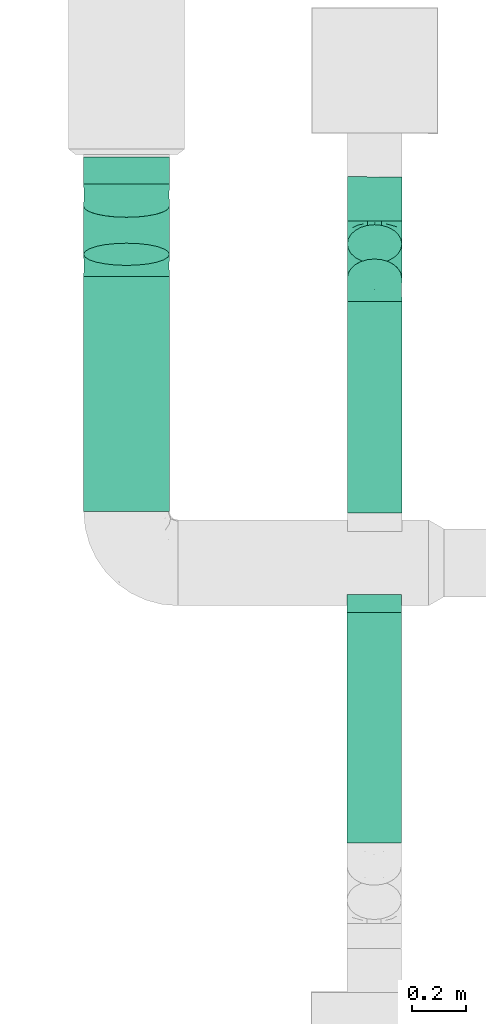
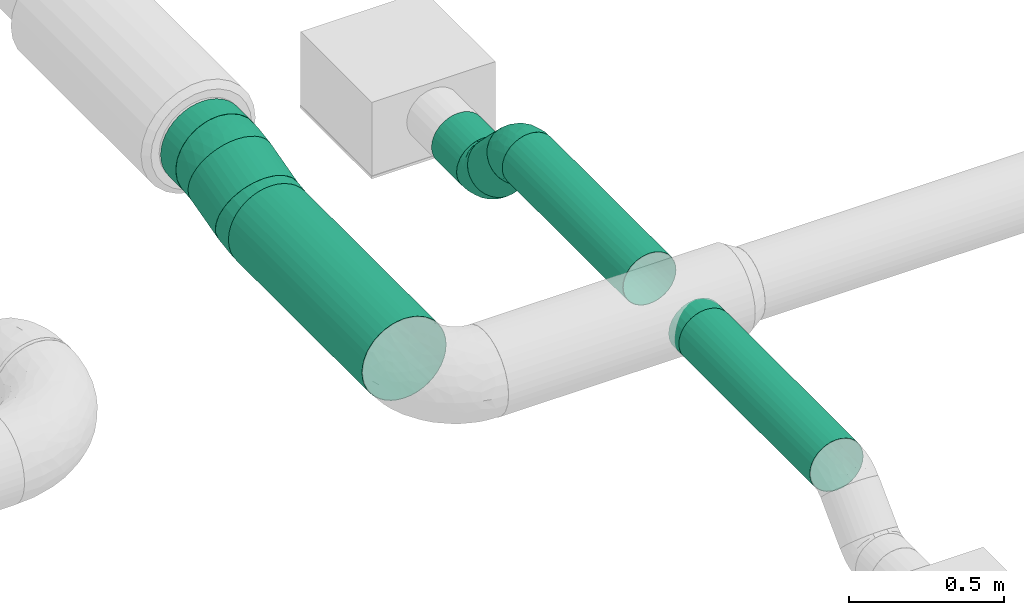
# One storey, part 15 of 63: 7 flow segments, 5 flow fittings.
"""IFC2X3 building model written with IfcOpenShell, lengths in millimetres."""

from ifc_helpers import new_model, entity, si_unit, converted_unit, derived_unit, direction, frame, origin_with_axes, origin_2d_with_axis, place, context, subcontext, project, spatial, hollow_circle, extrude, open_shell, surface_model, source, transform, mapped, type_object, element, save


model = new_model("IFC2X3")

# Units and contexts
model_context = context("Model", 3, precision=0.01, world=frame((0.0, 4.29681676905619e-09, 0.0)), true_north=direction((4.01073788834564e-13, 1.0)))
plan_context = context("Plan", 3, precision=0.01, world=frame((0.0, 4.29681676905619e-09, 0.0)), true_north=direction((4.01073788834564e-13, 1.0)))
body_context = subcontext(model_context, "Body", "Model", "MODEL_VIEW")
ifc_project = project(units=[converted_unit("PLANEANGLEUNIT", "DEGREE", entity("IfcPositiveLengthMeasure", 0.0174532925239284), si_unit("PLANEANGLEUNIT", "RADIAN"), dimensions=[0, 0, 0, 0, 0, 0, 0]), si_unit("AREAUNIT", "SQUARE_METRE"), si_unit("LENGTHUNIT", "METRE", prefix="MILLI"), si_unit("MASSUNIT", "GRAM", prefix="KILO"), si_unit("POWERUNIT", "WATT"), si_unit("PRESSUREUNIT", "PASCAL"), si_unit("FORCEUNIT", "NEWTON", prefix="KILO"), si_unit("ELECTRICVOLTAGEUNIT", "VOLT"), si_unit("ELECTRICCURRENTUNIT", "AMPERE"), si_unit("THERMODYNAMICTEMPERATUREUNIT", "DEGREE_CELSIUS"), si_unit("TIMEUNIT", "SECOND"), si_unit("VOLUMEUNIT", "CUBIC_METRE"), derived_unit("LINEARVELOCITYUNIT", [(si_unit("LENGTHUNIT", "METRE"), 1), (si_unit("TIMEUNIT", "SECOND"), -1)]), derived_unit("VOLUMETRICFLOWRATEUNIT", [(si_unit("VOLUMEUNIT", "CUBIC_METRE"), 1), (si_unit("TIMEUNIT", "SECOND"), -1)]), derived_unit("THERMALTRANSMITTANCEUNIT", [(si_unit("POWERUNIT", "WATT"), 1), (si_unit("THERMODYNAMICTEMPERATUREUNIT", "KELVIN"), -1), (si_unit("AREAUNIT", "SQUARE_METRE"), -1)]), derived_unit("SOUNDPRESSUREUNIT", [(si_unit("PRESSUREUNIT", "PASCAL"), 1)])], contexts=[model_context, plan_context])

# Site, building, storey
site_placement = place(None, frame((0.0, -4.29681676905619e-09, 0.0), z_axis=(0.0, 0.0, 1.0), x_axis=(1.0, 0.0, 0.0)))
site = spatial("IfcSite", under=ifc_project, at=site_placement, CompositionType="ELEMENT")
building_placement = place(site_placement, frame((0.0, 4.29681676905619e-09, 0.0), z_axis=(0.0, 0.0, 1.0), x_axis=(1.0, 0.0, 0.0)))
building = spatial("IfcBuilding", under=site, at=building_placement, Name="mc-building", CompositionType="ELEMENT")
storey_placement = place(building_placement, frame((0.0, 0.0, 210900.0), z_axis=(0.0, 0.0, 1.0), x_axis=(1.0, 0.0, 0.0)))
storey = spatial("IfcBuildingStorey", under=building, at=storey_placement, Name="Nivå F", CompositionType="ELEMENT", Elevation=210900.0)

# Flow fittings
duct_fitting_type_1 = type_object("IfcDuctFittingType", Name="magicirc_elbow_short_001", PredefinedType="BEND")
shared_shape_1 = source(origin_with_axes(), body_context, "Body", "SurfaceModel", [
    surface_model("IfcShellBasedSurfaceModel", [(-49.70563, 50.0, -86.60254), (-49.70563, 25.8819, -96.59259), (-49.70563, 70.71068, -70.71068), (-49.70563, 96.59259, -25.8819), (-49.70563, 86.60254, -50.0), (-49.70563, 86.60254, 50.0), (-49.70563, 96.59259, 25.8819), (-49.70563, 25.8819, 96.59259), (-49.70563, 50.0, 86.60254), (-49.70563, 70.71068, 70.71068), (-49.70563, -25.8819, 96.59259), (-49.70563, 0.0, 100.0), (-49.70563, 100.0, 0.0), (12.37742, -29.88175, 90.64522), (37.12404, -18.70607, 89.97421), (4.68854, -11.31914, 97.51858), (-15.97928, 38.57739, 94.78597), (-33.08073, 79.86395, 64.3352), (-38.64634, 93.30051, 41.23913), (-23.56301, 62.37217, 82.35825), (22.87885, -55.23445, 71.73393), (28.07272, 6.98114, 98.51039), (7.39001, 23.69873, 99.67584), (-26.09006, 96.38443, 50.0), (16.84592, 53.44845, 96.59259), (-33.15408, 103.44845, 25.8819), (-0.20815, 70.50252, 86.60254), (-49.70563, 0.0, -100.0), (-21.98306, 11.532, -99.67584), (4.68854, -11.31915, -97.51858), (6.95764, 23.32334, -99.68416), (-15.97928, 38.57738, -94.78597), (-0.20815, 70.50252, -86.60254), (16.84592, 53.44845, -96.59259), (60.35471, -50.93633, -55.32131), (28.49827, -69.68635, -52.39492), (22.87886, -55.23445, -71.73393), (28.07272, 6.98113, -98.51039), (-49.70565, -96.59259, -25.8819), (-49.70565, -100.0, 0.0), (-49.70565, -86.60254, -50.0), (-14.85282, 85.14719, -70.71068), (-26.09007, 96.38443, -50.0), (-33.1541, 103.44846, -25.8819), (-24.86597, -97.5535, 0.0), (-6.78576, -95.77276, 0.0), (-18.13184, -91.89202, 33.47276), (-13.02349, -39.47786, 89.97421), (-18.231, -62.02139, 76.22982), (-21.41192, 11.5723, 99.68416), (-49.70565, -86.60254, 50.0), (-49.70565, -96.59259, 25.8819), (22.49479, -82.45996, 31.38069), (50.71647, -68.4272, 35.42053), (29.12437, -69.42701, 52.3949), (13.84949, -89.51313, 0.0), (34.48473, -83.25349, 0.0), (12.37743, -29.88176, -90.64522), (-13.02349, -39.47786, -89.97421), (-42.05198, 101.52241, 0.0), (-35.56351, 105.85786, 0.0), (-38.64635, 93.30051, -41.23913), (37.12406, -18.70605, -89.97421), (1.72867, -92.12319, -18.52111), (-33.08075, 79.86395, -64.3352), (-27.44224, 60.76535, -82.35825), (-24.78683, -14.914, 98.51039), (-49.70565, -70.71068, -70.71068), (-6.65981, -78.69465, -55.32131), (-24.78683, -14.91401, -98.51039), (-49.70563, -50.0, -86.60254), (-49.70563, -25.8819, -96.59259), (-49.70563, -70.71068, 70.71068), (-49.70563, -50.0, 86.60254), (35.14719, 35.1472, -100.0), (103.44846, -33.15406, 25.8819), (96.38444, -26.09004, -50.0), (53.44846, 16.84593, -96.59259), (85.14719, -14.8528, -70.71068), (70.50253, -0.20814, -86.60254), (105.85787, -35.56347, 0.0), (103.44846, -33.15406, -25.8819), (-14.85282, 85.14719, 70.71068), (85.14719, -14.8528, 70.71068), (96.38444, -26.09004, 50.0), (70.50253, -0.20814, 86.60254), (53.44846, 16.84593, 96.59259), (35.14719, 35.1472, 100.0), (-6.6598, -78.69465, 55.32131), (42.49431, -77.9055, 18.20626), (72.51983, -62.9233, 0.0), (86.56365, -51.39784, 0.0), (63.91858, -66.36329, 18.52111), (77.79861, -52.15632, 33.47277), (60.35471, -50.93634, 55.32131), (56.74699, -30.96449, 76.22981), (53.50228, -73.08841, 0.0), (-18.13182, -91.89201, -33.47277), (77.79861, -52.15632, -33.47277), (-18.23098, -62.02139, -76.22982), (42.40177, -74.21421, -31.38069), (12.52339, -84.24729, -35.42053), (25.03951, -85.13552, -18.20627), (56.747, -30.96448, -76.22982)], [open_shell([[[0, 1, 2]], [[3, 4, 2]], [[5, 6, 7]], [[7, 8, 9]], [[5, 7, 9]], [[10, 11, 7]], [[6, 12, 3]], [[13, 14, 15]], [[8, 7, 16]], [[17, 5, 9]], [[6, 5, 18]], [[19, 8, 16]], [[13, 20, 14]], [[15, 21, 22]], [[17, 23, 18]], [[16, 22, 24]], [[25, 18, 23]], [[24, 26, 16]], [[26, 19, 16]], [[8, 19, 9]], [[19, 17, 9]], [[14, 21, 15]], [[6, 18, 25]], [[17, 18, 5]], [[27, 1, 28]], [[29, 28, 30]], [[31, 28, 1]], [[0, 31, 1]], [[32, 33, 31]], [[31, 33, 30]], [[30, 28, 31]], [[34, 35, 36]], [[30, 37, 29]], [[38, 39, 40]], [[41, 42, 43]], [[44, 45, 46]], [[47, 48, 20]], [[15, 22, 49]], [[46, 50, 51]], [[46, 51, 44]], [[52, 53, 54]], [[49, 22, 16]], [[51, 39, 44]], [[46, 55, 52]], [[15, 47, 13]], [[20, 13, 47]], [[55, 46, 45]], [[55, 56, 52]], [[57, 36, 58]], [[59, 60, 43]], [[43, 42, 61]], [[62, 57, 29]], [[45, 44, 63]], [[42, 41, 64]], [[65, 64, 41]], [[64, 61, 42]], [[55, 45, 63]], [[44, 39, 38]], [[36, 57, 62]], [[58, 29, 57]], [[15, 66, 47]], [[49, 66, 15]], [[67, 68, 40]], [[29, 69, 28]], [[58, 69, 29]], [[27, 67, 1]], [[40, 2, 1]], [[2, 40, 3]], [[70, 67, 71]], [[67, 27, 71]], [[40, 1, 67]], [[40, 39, 3]], [[39, 6, 3]], [[7, 6, 39]], [[10, 7, 39]], [[72, 73, 50]], [[51, 50, 73]], [[73, 10, 51]], [[51, 10, 39]], [[74, 75, 76]], [[41, 33, 32]], [[33, 75, 74]], [[33, 41, 75]], [[77, 78, 79]], [[77, 74, 78]], [[76, 80, 81]], [[78, 74, 76]], [[76, 75, 80]], [[41, 43, 23]], [[25, 23, 43]], [[23, 24, 41]], [[82, 26, 24]], [[82, 24, 23]], [[41, 24, 75]], [[75, 83, 84]], [[83, 75, 85]], [[75, 86, 85]], [[75, 24, 86]], [[24, 87, 86]], [[43, 60, 25]], [[88, 50, 46]], [[88, 52, 54]], [[73, 48, 47]], [[72, 50, 88]], [[66, 11, 10]], [[7, 11, 49]], [[10, 73, 47]], [[17, 19, 82]], [[16, 7, 49]], [[73, 72, 48]], [[56, 89, 52]], [[59, 6, 25]], [[90, 91, 92]], [[59, 12, 6]], [[53, 93, 94]], [[66, 49, 11]], [[88, 46, 52]], [[72, 88, 48]], [[86, 21, 14]], [[94, 84, 83]], [[85, 86, 14]], [[93, 84, 94]], [[83, 85, 95]], [[14, 95, 85]], [[93, 91, 75]], [[86, 87, 21]], [[53, 92, 93]], [[60, 59, 25]], [[87, 24, 22]], [[95, 20, 94]], [[82, 19, 26]], [[84, 93, 75]], [[20, 95, 14]], [[89, 96, 92]], [[94, 83, 95]], [[20, 48, 88]], [[82, 23, 17]], [[54, 94, 20]], [[94, 54, 53]], [[88, 54, 20]], [[47, 66, 10]], [[22, 21, 87]], [[92, 53, 89]], [[53, 52, 89]], [[96, 89, 56]], [[96, 90, 92]], [[93, 92, 91]], [[91, 80, 75]], [[78, 76, 34]], [[77, 79, 62]], [[69, 71, 27]], [[4, 61, 64]], [[32, 65, 41]], [[31, 0, 65]], [[0, 2, 65]], [[33, 74, 30]], [[61, 3, 43]], [[68, 97, 40]], [[98, 81, 91]], [[97, 44, 38]], [[99, 70, 58]], [[100, 101, 35]], [[99, 67, 70]], [[40, 97, 38]], [[101, 97, 68]], [[70, 71, 58]], [[102, 55, 63]], [[99, 36, 68]], [[56, 102, 100]], [[3, 12, 59]], [[68, 67, 99]], [[32, 31, 65]], [[34, 100, 35]], [[69, 58, 71]], [[4, 64, 2]], [[62, 29, 37]], [[36, 62, 103]], [[62, 79, 103]], [[98, 76, 81]], [[74, 77, 37]], [[98, 34, 76]], [[64, 65, 2]], [[98, 91, 90]], [[101, 63, 97]], [[100, 34, 98]], [[79, 78, 103]], [[37, 30, 74]], [[36, 103, 34]], [[43, 3, 59]], [[36, 99, 58]], [[78, 34, 103]], [[35, 68, 36]], [[97, 63, 44]], [[68, 35, 101]], [[28, 69, 27]], [[62, 37, 77]], [[63, 101, 102]], [[101, 100, 102]], [[98, 96, 100]], [[55, 102, 56]], [[3, 61, 4]], [[81, 80, 91]], [[96, 98, 90]], [[96, 56, 100]]])]),
])
for number, where, z_axis, x_axis, name in (
    (1, (530505.52786, 446598.74261, 3935.01186999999), (-0.999999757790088, 0.000647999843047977, -0.000253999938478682), (-0.000647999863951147, -0.999999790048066, 0.0), "magicirc_elbow_short_001"),
    (2, (530505.35723, 446402.55444, 4131.20000000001), (-0.999999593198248, 0.0, -0.00090199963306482), (0.0, 1.0, 0.0), "magicirc_elbow_short_001"),
):
    element("IfcFlowFitting", number, at=place(storey_placement, frame(where, z_axis=z_axis, x_axis=x_axis)), inside=storey, type_object=duct_fitting_type_1, Name=name, context=body_context, shape_type="MappedRepresentation", body=[
        mapped(shared_shape_1, transform((0.0, 0.0, 0.0), scale=1.0)),
    ])
duct_fitting_type_2 = type_object("IfcDuctFittingType", Name="magicirc_elbow_full_radius_001", PredefinedType="BEND")
shared_shape_2 = source(origin_with_axes(), body_context, "Body", "SurfaceModel", [
    surface_model("IfcShellBasedSurfaceModel", [(-41.47054, 78.75, -136.39901), (-41.47054, 40.764, -152.13332), (-41.47054, 0.0, -157.5), (-41.47054, 136.39901, -78.75), (-41.47054, -40.764, -152.13332), (-41.47054, 111.36932, -111.36932), (-41.47054, -157.5, 0.0), (-41.47054, -152.13332, 40.764), (-41.47054, -111.36932, -111.36932), (-41.47054, -152.13332, -40.764), (-41.47054, -78.75, -136.39901), (-41.47054, -136.39901, -78.75), (-41.47054, 152.13332, -40.764), (-41.47054, 157.5, 0.0), (-41.47054, 152.13332, 40.764), (-41.47054, 136.39901, 78.75), (-41.47054, 111.36932, 111.36932), (-41.47054, 78.75, 136.39901), (-41.47054, 40.764, 152.13332), (-41.47054, -111.36932, 111.36932), (-41.47054, -78.75, 136.39901), (-41.47054, -136.39901, 78.75), (-41.47054, 0.0, 157.5), (-41.47054, -40.764, 152.13332), (40.05746, 10.73336, -157.5), (29.50696, 50.10836, -152.13332), (19.67546, 86.80003, -136.39901), (4.7548, 142.48468, -78.75), (50.60796, -28.64164, -152.13332), (11.23296, 118.30787, -111.36932), (79.43246, -136.21613, 40.764), (80.82147, -141.39995, 0.0), (68.88196, -96.84114, -111.36932), (60.43946, -65.33329, -136.39901), (79.43246, -136.21613, -40.764), (75.36012, -121.01795, -78.75), (0.68246, 157.68287, -40.764), (-0.70654, 162.86668, 0.0), (0.68246, 157.68287, 40.764), (68.88196, -96.84114, 111.36932), (11.23296, 118.30787, 111.36932), (4.7548, 142.48468, 78.75), (40.05746, 10.73336, 157.5), (19.67546, 86.80003, 136.39901), (29.50696, 50.10836, 152.13332), (75.36012, -121.01795, 78.75), (60.43946, -65.33329, 136.39901), (50.60796, -28.64164, 152.13332), (9.94765, -123.30004, 94.09097), (18.76918, -142.56619, 57.79057), (12.40228, -94.20471, 123.507), (1.28551, -152.77932, 29.41271), (2.5908, -19.67907, 155.87488), (7.77576, -59.06273, 144.65871), (-2.79647, 21.24129, 156.38517), (-8.01604, 60.88784, 146.15449), (43.13613, -147.7242, 25.66079), (20.20309, -153.45769, 0.0), (-20.91266, 158.84743, 0.0), (38.30049, -147.90621, -29.41271), (18.76919, -142.56618, -57.79057), (22.30371, -121.67334, -94.09096), (-2.79647, 21.24128, -156.38517), (2.5908, -19.67907, -155.87488), (-8.01605, 60.88783, -146.15449), (7.77576, -59.06273, -144.65871), (12.40229, -94.20471, -123.507), (-3.43246, -153.85505, -25.66079)], [open_shell([[[0, 1, 2]], [[3, 0, 2]], [[4, 3, 2]], [[5, 0, 3]], [[3, 6, 7]], [[8, 9, 10]], [[4, 10, 6]], [[11, 9, 8]], [[6, 10, 9]], [[6, 3, 4]], [[7, 12, 3]], [[13, 7, 14]], [[15, 14, 16]], [[17, 16, 7]], [[7, 16, 14]], [[7, 18, 17]], [[19, 20, 21]], [[7, 21, 22]], [[23, 22, 20]], [[21, 20, 22]], [[22, 18, 7]], [[12, 7, 13]], [[24, 25, 26]], [[24, 26, 27]], [[24, 27, 28]], [[27, 26, 29]], [[30, 31, 27]], [[28, 32, 33]], [[32, 28, 34]], [[32, 34, 35]], [[34, 28, 31]], [[28, 27, 31]], [[27, 36, 37]], [[38, 39, 37]], [[40, 38, 41]], [[42, 40, 43]], [[38, 40, 39]], [[43, 44, 42]], [[37, 39, 45]], [[45, 30, 37]], [[46, 42, 47]], [[42, 46, 39]], [[42, 39, 40]], [[37, 30, 27]], [[19, 21, 48]], [[21, 7, 49]], [[48, 50, 19]], [[51, 49, 7]], [[21, 49, 48]], [[22, 23, 52]], [[53, 52, 23]], [[54, 18, 22]], [[20, 53, 23]], [[50, 53, 20]], [[20, 19, 50]], [[17, 55, 43]], [[15, 16, 41]], [[17, 40, 16]], [[56, 51, 57]], [[6, 51, 7]], [[49, 56, 30]], [[58, 14, 38]], [[47, 42, 52]], [[58, 13, 14]], [[38, 14, 15]], [[17, 18, 55]], [[31, 56, 57]], [[6, 57, 51]], [[54, 55, 18]], [[52, 53, 47]], [[46, 53, 50]], [[46, 47, 53]], [[54, 52, 42]], [[39, 46, 50]], [[30, 56, 31]], [[30, 45, 49]], [[45, 39, 48]], [[45, 48, 49]], [[39, 50, 48]], [[42, 44, 54]], [[52, 54, 22]], [[41, 38, 15]], [[37, 58, 38]], [[43, 55, 44]], [[17, 43, 40]], [[41, 16, 40]], [[54, 44, 55]], [[49, 51, 56]], [[59, 60, 34]], [[32, 35, 61]], [[62, 2, 1]], [[63, 4, 2]], [[27, 5, 3]], [[0, 64, 1]], [[5, 29, 0]], [[11, 61, 60]], [[64, 0, 26]], [[65, 63, 28]], [[66, 65, 33]], [[12, 36, 3]], [[6, 9, 67]], [[60, 59, 67]], [[66, 8, 10]], [[63, 62, 24]], [[9, 11, 60]], [[11, 8, 61]], [[65, 10, 4]], [[67, 59, 57]], [[60, 67, 9]], [[12, 13, 58]], [[58, 37, 36]], [[62, 64, 25]], [[36, 27, 3]], [[26, 0, 29]], [[35, 60, 61]], [[25, 64, 26]], [[8, 66, 61]], [[66, 10, 65]], [[5, 27, 29]], [[63, 2, 62]], [[24, 62, 25]], [[65, 28, 33]], [[65, 4, 63]], [[62, 1, 64]], [[66, 33, 32]], [[35, 34, 60]], [[6, 67, 57]], [[31, 57, 59]], [[32, 61, 66]], [[31, 59, 34]], [[28, 63, 24]], [[12, 58, 36]]])]),
])
for number, where, z_axis, x_axis, name in (
    (3, (529594.70329, 446742.40275, 4200.0), (1.0, 0.0, 0.0), (0.0, -1.0, 0.0), "magicirc_elbow_full_radius_001"),
    (4, (529594.70329, 446485.63287, 4131.19871999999), (-1.0, 0.0, 0.0), (0.0, -0.965925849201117, -0.258818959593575), "magicirc_elbow_full_radius_001"),
):
    element("IfcFlowFitting", number, at=place(storey_placement, frame(where, z_axis=z_axis, x_axis=x_axis)), inside=storey, type_object=duct_fitting_type_2, Name=name, context=body_context, shape_type="MappedRepresentation", body=[
        mapped(shared_shape_2, transform((0.0, 0.0, 0.0), scale=1.0)),
    ])
duct_fitting_type_3 = type_object("IfcDuctFittingType", Name="magicirc_tapoutlet_001", PredefinedType="CONNECTOR")
shared_shape_3 = source(origin_with_axes(), body_context, "Body", "SurfaceModel", [
    surface_model("IfcShellBasedSurfaceModel", [(25.0, 0.0, -100.0), (25.0, -50.0, -86.60254), (25.0, -25.8819, -96.59259), (25.0, -100.0, 0.0), (25.0, -96.59259, -25.8819), (25.0, -96.59259, 25.8819), (25.0, 25.8819, -96.59259), (25.0, 100.0, 0.0), (25.0, 50.0, -86.60254), (25.0, 70.71068, -70.71068), (25.0, 86.60254, -50.0), (25.0, -70.71068, -70.71068), (25.0, -86.60254, -50.0), (25.0, 96.59259, -25.8819), (25.0, 96.59259, 25.8819), (25.0, 86.60254, 50.0), (25.0, 70.71068, 70.71068), (25.0, 25.8819, 96.59259), (25.0, 50.0, 86.60254), (25.0, -25.8819, 96.59259), (25.0, -70.71068, 70.71068), (25.0, -86.60254, 50.0), (25.0, -50.0, 86.60254), (25.0, 0.0, 100.0), (0.0, 0.0, 100.0), (0.0, 25.8819, 96.59259), (0.0, 50.0, 86.60254), (0.0, 70.71068, 70.71068), (0.0, 86.60254, 50.0), (0.0, 96.59259, 25.8819), (0.0, 100.0, 0.0), (0.0, 96.59259, -25.8819), (0.0, 86.60254, -50.0), (0.0, 70.71068, -70.71068), (0.0, 25.8819, -96.59259), (0.0, 50.0, -86.60254), (0.0, 0.0, -100.0), (0.0, -25.8819, -96.59259), (0.0, -50.0, -86.60254), (0.0, -70.71068, -70.71068), (0.0, -86.60254, -50.0), (0.0, -96.59259, -25.8819), (0.0, -100.0, 0.0), (0.0, -96.59259, 25.8819), (0.0, -86.60254, 50.0), (0.0, -70.71068, 70.71068), (0.0, -50.0, 86.60254), (0.0, -25.8819, 96.59259), (-41.9151, 0.0, -100.0), (-41.9151, -25.8819, -96.59259), (-41.9151, 25.8819, -96.59259), (-41.9151, 96.59259, 25.8819), (-41.9151, 50.0, -86.60254), (-41.9151, 86.60254, -50.0), (-41.9151, 70.71068, -70.71068), (-41.9151, -100.0, 0.0), (-41.9151, -96.59259, 25.8819), (-41.9151, -70.71068, -70.71068), (-41.9151, -50.0, -86.60254), (-41.9151, -96.59259, -25.8819), (-41.9151, -86.60254, -50.0), (-41.9151, 96.59259, -25.8819), (-41.9151, 86.60254, 50.0), (-41.9151, 70.71068, 70.71068), (-41.9151, 50.0, 86.60254), (-41.9151, 25.8819, 96.59259), (-41.9151, 0.0, 100.0), (-41.9151, -86.60254, 50.0), (-41.9151, -70.71068, 70.71068), (-41.9151, -25.8819, 96.59259), (-41.9151, -50.0, 86.60254), (-41.9151, 100.0, 0.0)], [open_shell([[[0, 1, 2]], [[3, 4, 5]], [[6, 7, 0]], [[8, 7, 6]], [[7, 9, 10]], [[7, 8, 9]], [[11, 0, 5]], [[0, 11, 1]], [[12, 5, 4]], [[5, 12, 11]], [[7, 10, 13]], [[14, 15, 0]], [[15, 16, 0]], [[17, 0, 18]], [[0, 16, 18]], [[0, 17, 19]], [[0, 20, 21]], [[5, 0, 21]], [[0, 22, 20]], [[19, 22, 0]], [[17, 23, 19]], [[14, 0, 7]], [[24, 23, 17]], [[25, 17, 18]], [[24, 17, 25]], [[26, 16, 27]], [[26, 25, 18]], [[16, 26, 18]], [[28, 15, 14]], [[29, 14, 7]], [[27, 15, 28]], [[29, 28, 14]], [[30, 29, 7]], [[15, 27, 16]], [[30, 7, 13]], [[31, 13, 10]], [[30, 13, 31]], [[32, 9, 33]], [[32, 31, 10]], [[9, 32, 10]], [[6, 0, 34]], [[8, 6, 35]], [[33, 8, 35]], [[36, 34, 0]], [[6, 34, 35]], [[8, 33, 9]], [[36, 0, 2]], [[37, 2, 1]], [[36, 2, 37]], [[38, 11, 39]], [[38, 37, 1]], [[11, 38, 1]], [[40, 12, 4]], [[41, 4, 3]], [[39, 12, 40]], [[41, 40, 4]], [[42, 41, 3]], [[12, 39, 11]], [[42, 3, 5]], [[43, 5, 21]], [[42, 5, 43]], [[44, 20, 45]], [[44, 43, 21]], [[20, 44, 21]], [[46, 22, 19]], [[47, 19, 23]], [[45, 22, 46]], [[47, 46, 19]], [[24, 47, 23]], [[22, 45, 20]], [[15, 0, 14]], [[0, 15, 18]], [[18, 15, 16]], [[19, 0, 17]], [[0, 21, 5]], [[20, 21, 0]], [[20, 0, 22]], [[48, 49, 50]], [[50, 51, 52]], [[53, 54, 51]], [[51, 54, 52]], [[50, 55, 56]], [[57, 55, 58]], [[50, 49, 58]], [[59, 55, 60]], [[57, 60, 55]], [[58, 55, 50]], [[61, 53, 51]], [[62, 51, 50]], [[50, 63, 62]], [[64, 50, 65]], [[64, 63, 50]], [[66, 65, 50]], [[67, 68, 50]], [[50, 56, 67]], [[69, 66, 70]], [[50, 68, 70]], [[70, 66, 50]], [[71, 61, 51]], [[66, 24, 25]], [[65, 25, 26]], [[66, 25, 65]], [[64, 27, 63]], [[64, 65, 26]], [[27, 64, 26]], [[62, 28, 29]], [[51, 29, 30]], [[63, 28, 62]], [[51, 62, 29]], [[71, 51, 30]], [[28, 63, 27]], [[71, 30, 31]], [[61, 31, 32]], [[71, 31, 61]], [[53, 33, 54]], [[53, 61, 32]], [[33, 53, 32]], [[34, 36, 48]], [[35, 34, 52]], [[52, 54, 35]], [[48, 50, 34]], [[52, 34, 50]], [[35, 54, 33]], [[48, 36, 37]], [[49, 37, 38]], [[48, 37, 49]], [[58, 39, 57]], [[58, 49, 38]], [[39, 58, 38]], [[60, 40, 41]], [[59, 41, 42]], [[57, 40, 60]], [[59, 60, 41]], [[55, 59, 42]], [[40, 57, 39]], [[55, 42, 43]], [[56, 43, 44]], [[55, 43, 56]], [[67, 45, 68]], [[67, 56, 44]], [[45, 67, 44]], [[70, 46, 47]], [[69, 47, 24]], [[68, 46, 70]], [[69, 70, 47]], [[66, 69, 24]], [[46, 68, 45]]])]),
])
flow_fitting_placement = place(storey_placement, frame((530504.09314, 445235.26929, 4131.20000000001), z_axis=(0.0, 0.0, -1.0), x_axis=(0.0, -1.0, 0.0)))
element("IfcFlowFitting", 5, at=flow_fitting_placement, inside=storey, type_object=duct_fitting_type_3, Name="magicirc_tapoutlet_001", context=body_context, shape_type="MappedRepresentation", body=[
    mapped(shared_shape_3, transform((0.0, 0.0, 0.0), scale=1.0)),
])

# Flow segments
duct_segment_type_1 = type_object("IfcDuctSegmentType", Name="KK002T - Spiro kanaler, Forsinket stål, korte bend", PredefinedType="RIGIDSEGMENT")
shared_shape_4 = source(origin_with_axes(), body_context, "Body", "SweptSolid", [
    extrude(hollow_circle(Radius=100.0, WallThickness=2.0, at=origin_2d_with_axis()), frame((0.0, 0.0, 0.0), z_axis=(1.0, 0.0, 0.0), x_axis=(0.0, 1.0, 0.0)), (0.0, 0.0, 1.0), 161.9),
])
flow_segment_1_placement = place(storey_placement, frame((530505.66496, 446810.39345, 3935.01186999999), z_axis=(0.0, 0.0, 1.0), x_axis=(-0.000647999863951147, -0.999999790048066, 0.0)))
element("IfcFlowSegment", 6, at=flow_segment_1_placement, inside=storey, type_object=duct_segment_type_1, Name="KK002T - Spiro kanaler, Forsinket stål, korte bend", context=body_context, shape_type="MappedRepresentation", body=[
    mapped(shared_shape_4, transform((0.0, 0.0, 0.0), scale=1.0)),
])
shared_shape_5 = source(origin_with_axes(), body_context, "Body", "SweptSolid", [
    extrude(hollow_circle(Radius=100.0, WallThickness=2.0, at=origin_2d_with_axis()), frame((0.0, 0.0, 0.0), z_axis=(1.0, 0.0, 0.0), x_axis=(0.0, 1.0, 0.0)), (0.0, 0.0, 1.0), 178.0),
])
flow_segment_2_placement = place(storey_placement, frame((530505.49615, 446563.59544, 3970.15904), z_axis=(0.0, 0.707106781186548, 0.707106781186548), x_axis=(-0.000601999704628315, -0.707106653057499, 0.707106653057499)))
element("IfcFlowSegment", 7, at=flow_segment_2_placement, inside=storey, type_object=duct_segment_type_1, Name="KK002T - Spiro kanaler, Forsinket stål, korte bend", context=body_context, shape_type="MappedRepresentation", body=[
    mapped(shared_shape_5, transform((0.0, 0.0, 0.0), scale=1.0)),
])
shared_shape_6 = source(origin_with_axes(), body_context, "Body", "SweptSolid", [
    extrude(hollow_circle(Radius=100.0, WallThickness=2.0, at=origin_2d_with_axis()), frame((0.0, 0.0, 0.0), z_axis=(1.0, 0.0, 0.0), x_axis=(0.0, 1.0, 0.0)), (0.0, 0.0, 1.0), 777.6),
])
flow_segment_3_placement = place(storey_placement, frame((530505.35723, 445575.26929, 4131.20000000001), z_axis=(0.0, 0.0, 1.0), x_axis=(0.0, 1.0, 0.0)))
element("IfcFlowSegment", 8, at=flow_segment_3_placement, inside=storey, type_object=duct_segment_type_1, Name="KK002T - Spiro kanaler, Forsinket stål, korte bend", context=body_context, shape_type="MappedRepresentation", body=[
    mapped(shared_shape_6, transform((0.0, 0.0, 0.0), scale=1.0)),
])
shared_shape_7 = source(origin_with_axes(), body_context, "Body", "SweptSolid", [
    extrude(hollow_circle(Radius=100.0, WallThickness=2.0, at=origin_2d_with_axis()), frame((0.0, 0.0, 0.0), z_axis=(1.0, 0.0, 0.0), x_axis=(0.0, 1.0, 0.0)), (0.0, 0.0, 1.0), 845.6),
])
flow_segment_4_placement = place(storey_placement, frame((530504.09314, 445210.26929, 4131.20000000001), z_axis=(0.0, 0.0, 1.0), x_axis=(0.0, -1.0, 0.0)))
element("IfcFlowSegment", 9, at=flow_segment_4_placement, inside=storey, type_object=duct_segment_type_1, Name="KK002T - Spiro kanaler, Forsinket stål, korte bend", context=body_context, shape_type="MappedRepresentation", body=[
    mapped(shared_shape_7, transform((0.0, 0.0, 0.0), scale=1.0)),
])
duct_segment_type_2 = type_object("IfcDuctSegmentType", Name="Sirkulær kanal", PredefinedType="RIGIDSEGMENT")
shared_shape_8 = source(origin_with_axes(), body_context, "Body", "SweptSolid", [
    extrude(hollow_circle(Radius=157.5, WallThickness=2.0, at=origin_2d_with_axis()), frame((0.0, 0.0, 0.0), z_axis=(1.0, 0.0, 0.0), x_axis=(0.0, 1.0, 0.0)), (0.0, 0.0, 1.0), 98.5),
])
flow_segment_5_placement = place(storey_placement, frame((529594.70329, 446882.40275, 4200.0), z_axis=(0.0, 0.0, 1.0), x_axis=(0.0, -1.0, 0.0)))
element("IfcFlowSegment", 10, at=flow_segment_5_placement, inside=storey, type_object=duct_segment_type_2, Name="Sirkulær kanal", context=body_context, shape_type="MappedRepresentation", body=[
    mapped(shared_shape_8, transform((0.0, 0.0, 0.0), scale=1.0)),
])
shared_shape_9 = source(origin_with_axes(), body_context, "Body", "SweptSolid", [
    extrude(hollow_circle(Radius=157.5, WallThickness=2.0, at=origin_2d_with_axis()), frame((0.0, 0.0, 0.0), z_axis=(1.0, 0.0, 0.0), x_axis=(0.0, 1.0, 0.0)), (0.0, 0.0, 1.0), 862.4),
])
flow_segment_6_placement = place(storey_placement, frame((529594.70329, 445581.76929, 4131.19871999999), z_axis=(0.0, 0.0, 1.0), x_axis=(0.0, 1.0, 0.0)))
element("IfcFlowSegment", 11, at=flow_segment_6_placement, inside=storey, type_object=duct_segment_type_2, Name="Sirkulær kanal", context=body_context, shape_type="MappedRepresentation", body=[
    mapped(shared_shape_9, transform((0.0, 0.0, 0.0), scale=1.0)),
])
shared_shape_10 = source(origin_with_axes(), body_context, "Body", "SweptSolid", [
    extrude(hollow_circle(Radius=157.5, WallThickness=2.0, at=origin_2d_with_axis()), frame((0.0, 0.0, 0.0), z_axis=(1.0, 0.0, 0.0), x_axis=(0.0, 1.0, 0.0)), (0.0, 0.0, 1.0), 182.9),
])
flow_segment_7_placement = place(storey_placement, frame((529594.70329, 446702.34528, 4189.26663999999), z_axis=(0.0, -0.258818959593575, 0.965925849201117), x_axis=(0.0, -0.965925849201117, -0.258818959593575)))
element("IfcFlowSegment", 12, at=flow_segment_7_placement, inside=storey, type_object=duct_segment_type_2, Name="Sirkulær kanal", context=body_context, shape_type="MappedRepresentation", body=[
    mapped(shared_shape_10, transform((0.0, 0.0, 0.0), scale=1.0)),
])

save(model, "model.ifc")
